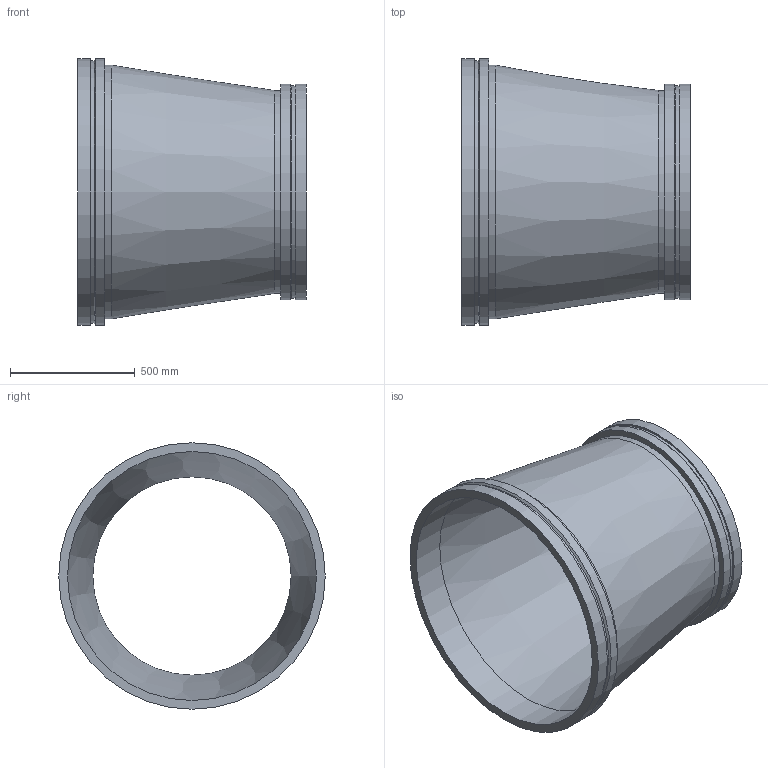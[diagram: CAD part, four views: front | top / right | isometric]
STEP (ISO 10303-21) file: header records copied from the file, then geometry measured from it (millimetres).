
FILE_DESCRIPTION(/* description */ ('VIC REDUCER CONCENTRIC No W50 VR','CAx-IF Rec.Pracs.---Representation and Presentation of Product Manufacturing Information (PMI)---4.0---2014-10-13'),/* implementation_level */ '2;1');
FILE_NAME(/* name */ 'C:\Users\kkamble\AppData\Roaming\Autodesk\ApplicationPlugins\Back Up\Victaulic_Vic-Ring_Reducer Concentric_No W50 VR (AGR)\Victaulic_Vic-Ring_Reducer Concentric_No W50 VR (AGR)_40.0x32.0 (1000x800).stp',/* time_stamp */ '2020-09-10T11:47:22+05:00',/* author */ ('cps_temp'),/* organization */ ('Victaulic'),/* preprocessor_version */ 'ST-DEVELOPER v17.2',/* originating_system */ 'Autodesk Inventor 2019',/* authorisation */ '');
FILE_SCHEMA (('AP242_MANAGED_MODEL_BASED_3D_ENGINEERING_MIM_LF { 1 0 10303 442 1 1 4 }'));
Length unit declared in the file: inch
Products named in the file (1): W50 VR-40.0x32.0
Bounding box: 914.4 x 1066.8 x 1066.8 mm (x, y, z)
Volume: 39755851.5 mm3; surface area: 5700677.9 mm2
Topology: 1 solids, 1 shells, 20 faces, 54 edges, 40 vertices
Faces by surface type: cylinder 10, plane 6, cone 4
Full cylindrical faces by diameter (mm): 793.75 x1, 812.8 x1, 849.122 x1, 863.6 x2, 996.95 x1, 1016 x1, 1050.925 x1, 1066.8 x2
Entity records: 830 total; most frequent: DIRECTION 162, CARTESIAN_POINT 132, ORIENTED_EDGE 108, AXIS2_PLACEMENT_3D 74, EDGE_CURVE 54, CIRCLE 40, VERTEX_POINT 40, EDGE_LOOP 26
